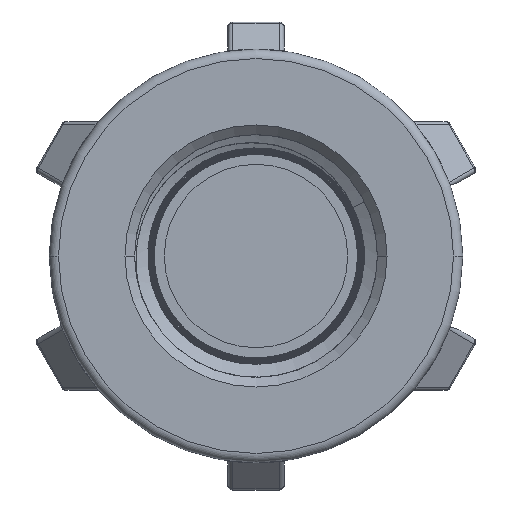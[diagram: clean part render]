
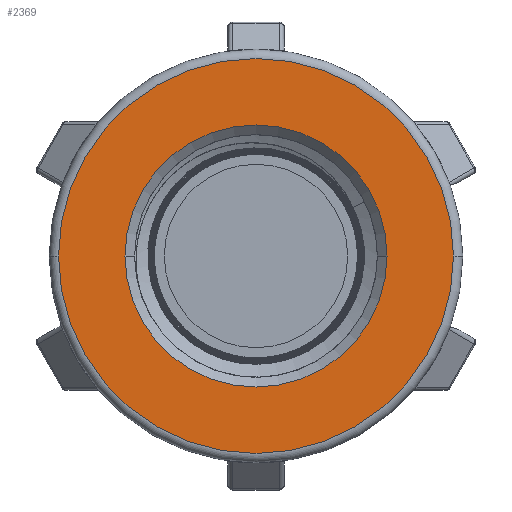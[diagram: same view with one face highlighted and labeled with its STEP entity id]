
A CAD part, front view. The second image highlights one B-rep face of the part: STEP entity #2369.
In plain terms, the highlighted planar face has unit normal (0, -1, 0).
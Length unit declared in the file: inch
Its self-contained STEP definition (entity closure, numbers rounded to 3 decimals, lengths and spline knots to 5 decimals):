
#105=CIRCLE('',#2536,0.83071);
#106=CIRCLE('',#2537,0.83071);
#107=CIRCLE('',#2538,0.55118);
#108=CIRCLE('',#2539,0.55118);
#670=VERTEX_POINT('',#3414);
#671=VERTEX_POINT('',#3415);
#672=VERTEX_POINT('',#3418);
#673=VERTEX_POINT('',#3419);
#917=EDGE_CURVE('',#670,#671,#105,.T.);
#918=EDGE_CURVE('',#671,#670,#106,.T.);
#919=EDGE_CURVE('',#672,#673,#107,.F.);
#920=EDGE_CURVE('',#673,#672,#108,.F.);
#1294=ORIENTED_EDGE('',*,*,#917,.T.);
#1295=ORIENTED_EDGE('',*,*,#918,.T.);
#1296=ORIENTED_EDGE('',*,*,#919,.T.);
#1297=ORIENTED_EDGE('',*,*,#920,.T.);
#2023=EDGE_LOOP('',(#1294,#1295));
#2024=EDGE_LOOP('',(#1296,#1297));
#2196=FACE_BOUND('',#2023,.T.);
#2197=FACE_BOUND('',#2024,.T.);
#2369=ADVANCED_FACE('',(#2196,#2197),#17268,.T.);
#2535=AXIS2_PLACEMENT_3D('',#3412,#2776,$);
#2536=AXIS2_PLACEMENT_3D('',#3413,#2777,#2778);
#2537=AXIS2_PLACEMENT_3D('',#3416,#2779,#2780);
#2538=AXIS2_PLACEMENT_3D('',#3417,#2781,#2782);
#2539=AXIS2_PLACEMENT_3D('',#3420,#2783,#2784);
#2776=DIRECTION('',(0.,-1.,0.));
#2777=DIRECTION('',(0.,-1.,0.));
#2778=DIRECTION('',(0.,0.,-0.831));
#2779=DIRECTION('',(0.,-1.,0.));
#2780=DIRECTION('',(0.,0.,-0.831));
#2781=DIRECTION('',(0.,-1.,0.));
#2782=DIRECTION('',(0.,0.,-0.551));
#2783=DIRECTION('',(0.,-1.,0.));
#2784=DIRECTION('',(0.,0.,-0.551));
#3412=CARTESIAN_POINT('',(0.,0.,0.));
#3413=CARTESIAN_POINT('',(0.,0.,0.));
#3414=CARTESIAN_POINT('',(-0.83071,0.,0.));
#3415=CARTESIAN_POINT('',(0.83071,0.,0.));
#3416=CARTESIAN_POINT('',(0.,0.,0.));
#3417=CARTESIAN_POINT('',(0.,0.,0.));
#3418=CARTESIAN_POINT('',(0.55118,0.,0.));
#3419=CARTESIAN_POINT('',(-0.55118,0.,0.));
#3420=CARTESIAN_POINT('',(0.,0.,0.));
#17268=PLANE('',#2535);
